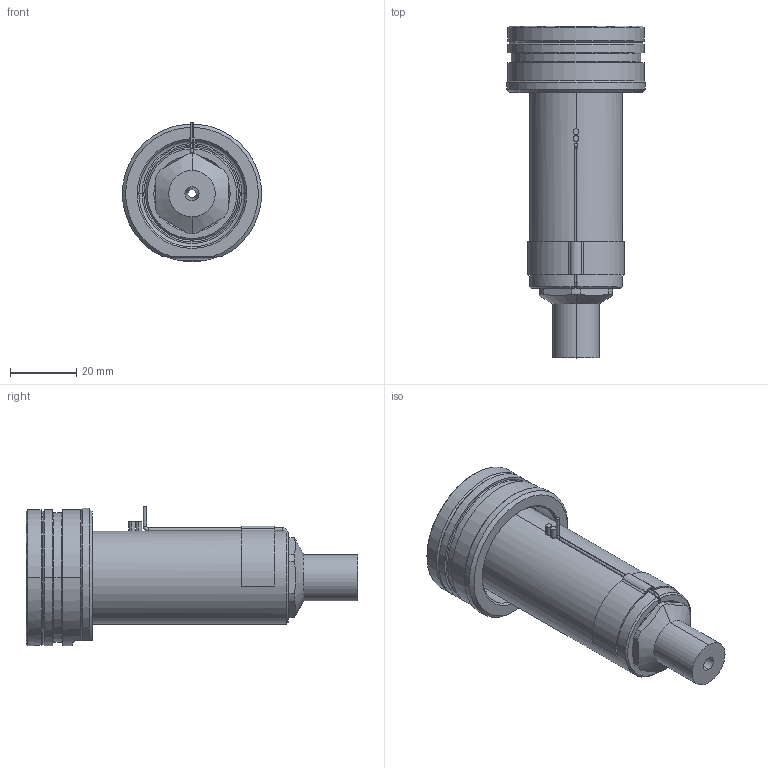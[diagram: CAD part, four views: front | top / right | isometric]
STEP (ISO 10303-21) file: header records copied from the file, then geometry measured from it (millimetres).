
FILE_DESCRIPTION((''),'2;1');
FILE_NAME('EO10_VG-FBE_WR_070_SW','2024-02-19T14:00:45',('sundharh'),(''),'CREO PARAMETRIC BY PTC INC, 2023154','CREO PARAMETRIC BY PTC INC, 2023154','');
FILE_SCHEMA(('CONFIG_CONTROL_DESIGN'));
Length unit declared in the file: millimetre
Products named in the file (1): EO10_VG-FBE_WR_070_SW
Bounding box: 41.85 x 100 x 42.02 mm (x, y, z)
Volume: 57649.8 mm3; surface area: 18004.7 mm2
Topology: 1 solids, 1 shells, 195 faces, 484 edges, 295 vertices
Faces by surface type: cylinder 71, plane 47, cone 39, torus 23, bspline 13, sphere 2
Entity records: 6701 total; most frequent: CARTESIAN_POINT 1977, DIRECTION 1045, ORIENTED_EDGE 964, EDGE_CURVE 482, AXIS2_PLACEMENT_3D 437, VERTEX_POINT 295, CIRCLE 255, EDGE_LOOP 211
